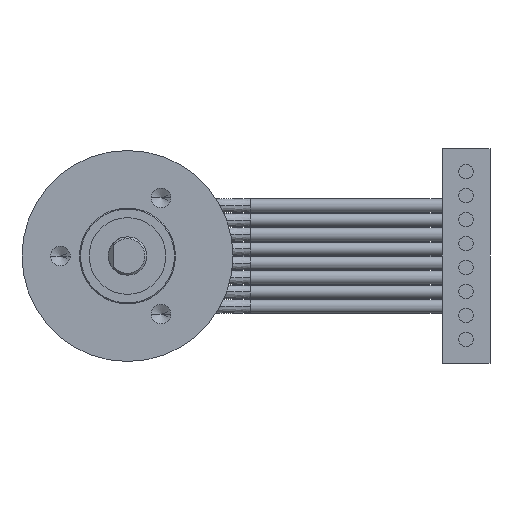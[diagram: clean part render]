
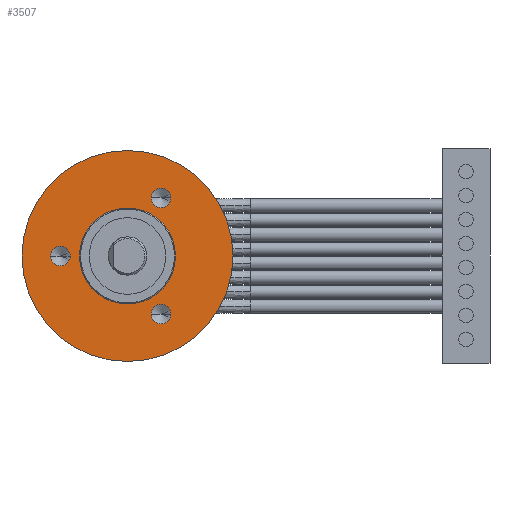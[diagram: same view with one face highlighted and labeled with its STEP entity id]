
A CAD part, left-side view. The second image highlights one B-rep face of the part: STEP entity #3507.
In plain terms, the highlighted planar face has unit normal (-1, 0, 0).
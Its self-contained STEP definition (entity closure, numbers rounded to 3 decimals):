
#172 = DIRECTION ( 'NONE',  ( 0., -1., 0. ) ) ;
#199 = DIRECTION ( 'NONE',  ( -1., 0., 0. ) ) ;
#219 = CARTESIAN_POINT ( 'NONE',  ( 14.85, -3.5, 6.062 ) ) ;
#556 = ORIENTED_EDGE ( 'NONE', *, *, #5047, .F. ) ;
#694 = CIRCLE ( 'NONE', #7067, 11. ) ;
#704 = CARTESIAN_POINT ( 'NONE',  ( 14.85, 5.975, 0. ) ) ;
#848 = CARTESIAN_POINT ( 'NONE',  ( 14.85, -2.475, 6.062 ) ) ;
#909 = CARTESIAN_POINT ( 'NONE',  ( 14.85, -2.475, -6.062 ) ) ;
#985 = ORIENTED_EDGE ( 'NONE', *, *, #2717, .F. ) ;
#998 = EDGE_CURVE ( 'NONE', #2705, #4440, #2395, .T. ) ;
#1027 = FACE_BOUND ( 'NONE', #1733, .T. ) ;
#1033 = VERTEX_POINT ( 'NONE', #1432 ) ;
#1239 = CIRCLE ( 'NONE', #1444, 1.025 ) ;
#1354 = ORIENTED_EDGE ( 'NONE', *, *, #4479, .F. ) ;
#1367 = AXIS2_PLACEMENT_3D ( 'NONE', #5888, #5810, #5761 ) ;
#1376 = ORIENTED_EDGE ( 'NONE', *, *, #4035, .F. ) ;
#1432 = CARTESIAN_POINT ( 'NONE',  ( 14.85, -4.525, -6.062 ) ) ;
#1444 = AXIS2_PLACEMENT_3D ( 'NONE', #2872, #2847, #2826 ) ;
#1477 = AXIS2_PLACEMENT_3D ( 'NONE', #2907, #6338, #6128 ) ;
#1519 = DIRECTION ( 'NONE',  ( 0., -1., 0. ) ) ;
#1531 = DIRECTION ( 'NONE',  ( -1., 0., 0. ) ) ;
#1548 = CARTESIAN_POINT ( 'NONE',  ( 14.85, 7., 0. ) ) ;
#1592 = CIRCLE ( 'NONE', #1477, 11. ) ;
#1643 = VERTEX_POINT ( 'NONE', #5752 ) ;
#1733 = EDGE_LOOP ( 'NONE', ( #5407, #4523 ) ) ;
#1899 = DIRECTION ( 'NONE',  ( 0., 0., 1. ) ) ;
#1920 = DIRECTION ( 'NONE',  ( 1., 0., 0. ) ) ;
#1943 = CARTESIAN_POINT ( 'NONE',  ( 14.85, 0., 0. ) ) ;
#2130 = VERTEX_POINT ( 'NONE', #848 ) ;
#2143 = EDGE_LOOP ( 'NONE', ( #3168, #6150 ) ) ;
#2194 = AXIS2_PLACEMENT_3D ( 'NONE', #1548, #1531, #1519 ) ;
#2249 = FACE_OUTER_BOUND ( 'NONE', #3700, .T. ) ;
#2395 = CIRCLE ( 'NONE', #2194, 1.025 ) ;
#2448 = CIRCLE ( 'NONE', #3423, 5. ) ;
#2557 = CARTESIAN_POINT ( 'NONE',  ( 14.85, -3.5, -6.062 ) ) ;
#2569 = EDGE_CURVE ( 'NONE', #4440, #2705, #4411, .T. ) ;
#2676 = VERTEX_POINT ( 'NONE', #4724 ) ;
#2705 = VERTEX_POINT ( 'NONE', #4460 ) ;
#2717 = EDGE_CURVE ( 'NONE', #7290, #6025, #694, .T. ) ;
#2826 = DIRECTION ( 'NONE',  ( 0., -1., 0. ) ) ;
#2847 = DIRECTION ( 'NONE',  ( -1., 0., 0. ) ) ;
#2872 = CARTESIAN_POINT ( 'NONE',  ( 14.85, -3.5, -6.062 ) ) ;
#2907 = CARTESIAN_POINT ( 'NONE',  ( 14.85, 0., 0. ) ) ;
#3081 = CARTESIAN_POINT ( 'NONE',  ( 14.85, -4.525, 6.062 ) ) ;
#3114 = EDGE_LOOP ( 'NONE', ( #1354, #1376 ) ) ;
#3158 = DIRECTION ( 'NONE',  ( 0., -1., 0. ) ) ;
#3168 = ORIENTED_EDGE ( 'NONE', *, *, #7098, .F. ) ;
#3423 = AXIS2_PLACEMENT_3D ( 'NONE', #1943, #1920, #1899 ) ;
#3487 = AXIS2_PLACEMENT_3D ( 'NONE', #5536, #5534, #5516 ) ;
#3507 = ADVANCED_FACE ( 'NONE', ( #1027, #5402, #3984, #3801, #2249 ), #4821, .F. ) ;
#3552 = AXIS2_PLACEMENT_3D ( 'NONE', #6891, #6877, #6871 ) ;
#3700 = EDGE_LOOP ( 'NONE', ( #985, #556 ) ) ;
#3801 = FACE_BOUND ( 'NONE', #7574, .T. ) ;
#3966 = VERTEX_POINT ( 'NONE', #909 ) ;
#3984 = FACE_BOUND ( 'NONE', #3114, .T. ) ;
#4035 = EDGE_CURVE ( 'NONE', #2130, #4844, #4291, .T. ) ;
#4167 = DIRECTION ( 'NONE',  ( 0., 0., 1. ) ) ;
#4194 = DIRECTION ( 'NONE',  ( 1., 0., 0. ) ) ;
#4217 = CARTESIAN_POINT ( 'NONE',  ( 14.85, 0., 0. ) ) ;
#4230 = DIRECTION ( 'NONE',  ( 0., 0., -1. ) ) ;
#4258 = DIRECTION ( 'NONE',  ( 1., 0., 0. ) ) ;
#4277 = CIRCLE ( 'NONE', #1367, 5. ) ;
#4285 = CARTESIAN_POINT ( 'NONE',  ( 14.85, -11.132, 11.132 ) ) ;
#4291 = CIRCLE ( 'NONE', #3552, 1.025 ) ;
#4411 = CIRCLE ( 'NONE', #3487, 1.025 ) ;
#4440 = VERTEX_POINT ( 'NONE', #704 ) ;
#4460 = CARTESIAN_POINT ( 'NONE',  ( 14.85, 8.025, 0. ) ) ;
#4479 = EDGE_CURVE ( 'NONE', #4844, #2130, #5881, .T. ) ;
#4523 = ORIENTED_EDGE ( 'NONE', *, *, #7194, .T. ) ;
#4675 = EDGE_CURVE ( 'NONE', #2676, #1643, #4277, .T. ) ;
#4724 = CARTESIAN_POINT ( 'NONE',  ( 14.85, 0., 5. ) ) ;
#4729 = ORIENTED_EDGE ( 'NONE', *, *, #2569, .F. ) ;
#4821 = PLANE ( 'NONE',  #6310 ) ;
#4844 = VERTEX_POINT ( 'NONE', #3081 ) ;
#4859 = AXIS2_PLACEMENT_3D ( 'NONE', #219, #199, #172 ) ;
#5047 = EDGE_CURVE ( 'NONE', #6025, #7290, #1592, .T. ) ;
#5126 = CARTESIAN_POINT ( 'NONE',  ( 14.85, 0., 11. ) ) ;
#5402 = FACE_BOUND ( 'NONE', #2143, .T. ) ;
#5407 = ORIENTED_EDGE ( 'NONE', *, *, #4675, .T. ) ;
#5516 = DIRECTION ( 'NONE',  ( 0., -1., 0. ) ) ;
#5534 = DIRECTION ( 'NONE',  ( -1., 0., 0. ) ) ;
#5536 = CARTESIAN_POINT ( 'NONE',  ( 14.85, 7., 0. ) ) ;
#5752 = CARTESIAN_POINT ( 'NONE',  ( 14.85, 0., -5. ) ) ;
#5761 = DIRECTION ( 'NONE',  ( 0., 0., 1. ) ) ;
#5810 = DIRECTION ( 'NONE',  ( 1., 0., 0. ) ) ;
#5881 = CIRCLE ( 'NONE', #4859, 1.025 ) ;
#5888 = CARTESIAN_POINT ( 'NONE',  ( 14.85, 0., 0. ) ) ;
#5957 = CARTESIAN_POINT ( 'NONE',  ( 14.85, 0., -11. ) ) ;
#6025 = VERTEX_POINT ( 'NONE', #5957 ) ;
#6128 = DIRECTION ( 'NONE',  ( 0., 0., 1. ) ) ;
#6150 = ORIENTED_EDGE ( 'NONE', *, *, #7527, .F. ) ;
#6310 = AXIS2_PLACEMENT_3D ( 'NONE', #4285, #4258, #4230 ) ;
#6338 = DIRECTION ( 'NONE',  ( 1., 0., 0. ) ) ;
#6680 = CIRCLE ( 'NONE', #7247, 1.025 ) ;
#6702 = DIRECTION ( 'NONE',  ( -1., 0., 0. ) ) ;
#6871 = DIRECTION ( 'NONE',  ( 0., -1., 0. ) ) ;
#6877 = DIRECTION ( 'NONE',  ( -1., 0., 0. ) ) ;
#6891 = CARTESIAN_POINT ( 'NONE',  ( 14.85, -3.5, 6.062 ) ) ;
#7067 = AXIS2_PLACEMENT_3D ( 'NONE', #4217, #4194, #4167 ) ;
#7098 = EDGE_CURVE ( 'NONE', #1033, #3966, #1239, .T. ) ;
#7194 = EDGE_CURVE ( 'NONE', #1643, #2676, #2448, .T. ) ;
#7247 = AXIS2_PLACEMENT_3D ( 'NONE', #2557, #6702, #3158 ) ;
#7290 = VERTEX_POINT ( 'NONE', #5126 ) ;
#7477 = ORIENTED_EDGE ( 'NONE', *, *, #998, .F. ) ;
#7527 = EDGE_CURVE ( 'NONE', #3966, #1033, #6680, .T. ) ;
#7574 = EDGE_LOOP ( 'NONE', ( #4729, #7477 ) ) ;
